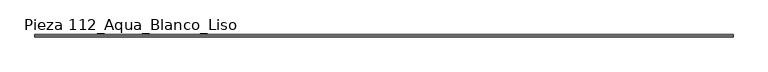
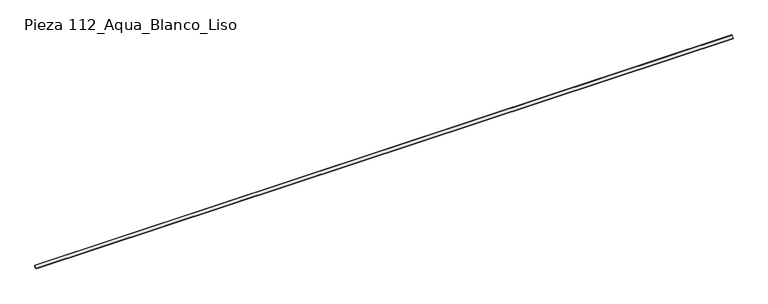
"""IFC4 building model written with IfcOpenShell, lengths in millimetres: slab geometry, ROSA GRES_112 : Pieza 112_Aqua_Blanco_Liso."""

from ifc_helpers import new_model, si_unit, point, frame, frame_2d, origin, place, context, project, spatial, polyline, circle_curve, trimmed, segment, composite_curve, outline, extrude, source, transform, mapped, element, save


def pieza_112_aqua_blanco_liso_c7c84e2d(model_context):
    return source(origin(), model_context, "Body", "SweptSolid", [
        extrude(outline(composite_curve([segment(polyline([(9.9734114, 8.7114978), (1.2619137, 0.0), (-30.0265886, 0.0), (-30.0265886, 9.9734114)]), True, "CONTINUOUS"), segment(trimmed(circle_curve(frame_2d((-30.0221432, 39.9955547)), 30.0221435), [point((-30.0265886, 9.9734114))], [point((0.0, 40.0))], True, "CARTESIAN"), True, "CONTINUOUS"), segment(polyline([(0.0, 40.0), (9.9734114, 40.0), (9.9734114, 8.7114978)]), True, "CONTINUOUS")], self_intersect=False)), frame((0.0, 0.0, 0.0), z_axis=(1.0, 0.0, 0.0), x_axis=(0.0, 1.0, 0.0)), (0.0, 0.0, 1.0), 11480.0),
    ])


if __name__ == "__main__":
    model = new_model("IFC4")
    model_context = context("Model", 3, world=origin())
    ifc_project = project(units=[si_unit("LENGTHUNIT", "METRE", prefix="MILLI")], contexts=[model_context])
    site = spatial("IfcSite", under=ifc_project)
    building = spatial("IfcBuilding", under=site)
    placement = place(None, origin())
    pieza_112_aqua_blanco_liso_shape = pieza_112_aqua_blanco_liso_c7c84e2d(model_context)
    element("IfcSlab", 1, ObjectType="ROSA GRES_112 : Pieza 112_Aqua_Blanco_Liso", at=placement, inside=building, context=model_context, shape_type="MappedRepresentation", body=[
        mapped(pieza_112_aqua_blanco_liso_shape, transform((0.0, 0.0, 0.0), x_axis=(1.0, 0.0, 0.0), y_axis=(0.0, 1.0, 0.0), z_axis=(0.0, 0.0, 1.0))),
    ])
    save(model, "model.ifc")
